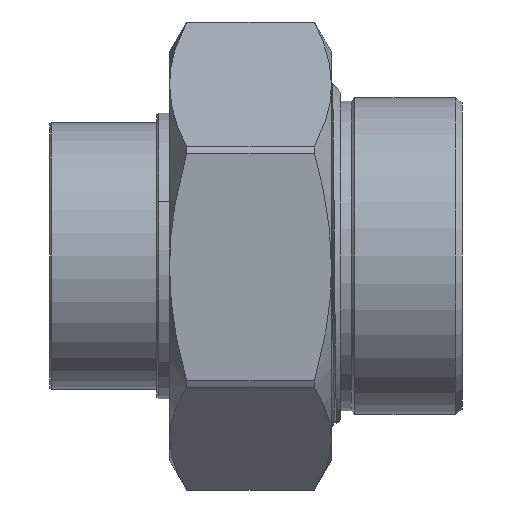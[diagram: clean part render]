
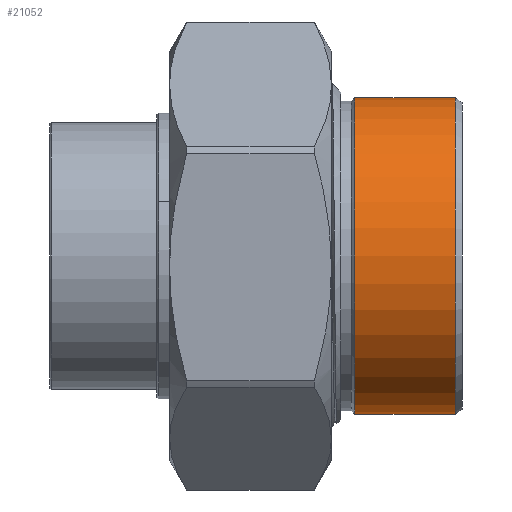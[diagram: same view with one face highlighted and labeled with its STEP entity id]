
A CAD part, front view. The second image highlights one B-rep face of the part: STEP entity #21052.
In plain terms, the highlighted cylindrical face has radius 27.4 mm (diameter 54.8 mm), a partial arc.
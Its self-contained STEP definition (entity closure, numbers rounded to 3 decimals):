
#2273 = VERTEX_POINT('',#2274);
#2274 = CARTESIAN_POINT('',(-14.095,0.,27.4));
#2288 = CONICAL_SURFACE('',#2289,27.4,0.785);
#2289 = AXIS2_PLACEMENT_3D('',#2290,#2291,#2292);
#2290 = CARTESIAN_POINT('',(-14.095,0.,0.));
#2291 = DIRECTION('',(1.,0.,0.));
#2292 = DIRECTION('',(0.,0.,-1.));
#2301 = VERTEX_POINT('',#2302);
#2302 = CARTESIAN_POINT('',(-14.095,0.,-27.4));
#2317 = CYLINDRICAL_SURFACE('',#2318,27.4);
#2318 = AXIS2_PLACEMENT_3D('',#2319,#2320,#2321);
#2319 = CARTESIAN_POINT('',(-49.809,0.,0.));
#2320 = DIRECTION('',(-1.,0.,0.));
#2321 = DIRECTION('',(0.,0.,1.));
#2354 = VERTEX_POINT('',#2355);
#2355 = CARTESIAN_POINT('',(3.255,0.,27.4));
#2356 = VERTEX_POINT('',#2357);
#2357 = CARTESIAN_POINT('',(3.255,0.,-27.4));
#2384 = EDGE_CURVE('',#2356,#2301,#2385,.T.);
#2385 = SURFACE_CURVE('',#2386,(#2390,#2397),.PCURVE_S1.);
#2386 = LINE('',#2387,#2388);
#2387 = CARTESIAN_POINT('',(-49.809,0.,-27.4));
#2388 = VECTOR('',#2389,1.);
#2389 = DIRECTION('',(-1.,0.,0.));
#2390 = PCURVE('',#2317,#2391);
#2391 = DEFINITIONAL_REPRESENTATION('',(#2392),#2396);
#2392 = LINE('',#2393,#2394);
#2393 = CARTESIAN_POINT('',(3.142,0.));
#2394 = VECTOR('',#2395,1.);
#2395 = DIRECTION('',(0.,1.));
#2396 = ( GEOMETRIC_REPRESENTATION_CONTEXT(2) 
PARAMETRIC_REPRESENTATION_CONTEXT() REPRESENTATION_CONTEXT('2D SPACE',''
  ) );
#2397 = PCURVE('',#2398,#2403);
#2398 = CYLINDRICAL_SURFACE('',#2399,27.4);
#2399 = AXIS2_PLACEMENT_3D('',#2400,#2401,#2402);
#2400 = CARTESIAN_POINT('',(-49.809,0.,0.));
#2401 = DIRECTION('',(-1.,0.,0.));
#2402 = DIRECTION('',(0.,0.,1.));
#2403 = DEFINITIONAL_REPRESENTATION('',(#2404),#2408);
#2404 = LINE('',#2405,#2406);
#2405 = CARTESIAN_POINT('',(3.142,0.));
#2406 = VECTOR('',#2407,1.);
#2407 = DIRECTION('',(0.,1.));
#2408 = ( GEOMETRIC_REPRESENTATION_CONTEXT(2) 
PARAMETRIC_REPRESENTATION_CONTEXT() REPRESENTATION_CONTEXT('2D SPACE',''
  ) );
#2411 = EDGE_CURVE('',#2354,#2273,#2412,.T.);
#2412 = SURFACE_CURVE('',#2413,(#2417,#2424),.PCURVE_S1.);
#2413 = LINE('',#2414,#2415);
#2414 = CARTESIAN_POINT('',(-49.809,0.,27.4));
#2415 = VECTOR('',#2416,1.);
#2416 = DIRECTION('',(-1.,0.,0.));
#2417 = PCURVE('',#2317,#2418);
#2418 = DEFINITIONAL_REPRESENTATION('',(#2419),#2423);
#2419 = LINE('',#2420,#2421);
#2420 = CARTESIAN_POINT('',(0.,0.));
#2421 = VECTOR('',#2422,1.);
#2422 = DIRECTION('',(0.,1.));
#2423 = ( GEOMETRIC_REPRESENTATION_CONTEXT(2) 
PARAMETRIC_REPRESENTATION_CONTEXT() REPRESENTATION_CONTEXT('2D SPACE',''
  ) );
#2424 = PCURVE('',#2398,#2425);
#2425 = DEFINITIONAL_REPRESENTATION('',(#2426),#2430);
#2426 = LINE('',#2427,#2428);
#2427 = CARTESIAN_POINT('',(6.283,0.));
#2428 = VECTOR('',#2429,1.);
#2429 = DIRECTION('',(0.,1.));
#2430 = ( GEOMETRIC_REPRESENTATION_CONTEXT(2) 
PARAMETRIC_REPRESENTATION_CONTEXT() REPRESENTATION_CONTEXT('2D SPACE',''
  ) );
#2480 = CONICAL_SURFACE('',#2481,26.5,0.644);
#2481 = AXIS2_PLACEMENT_3D('',#2482,#2483,#2484);
#2482 = CARTESIAN_POINT('',(4.455,0.,0.));
#2483 = DIRECTION('',(-1.,0.,0.));
#2484 = DIRECTION('',(0.,0.,1.));
#21031 = EDGE_CURVE('',#2356,#2354,#21032,.T.);
#21032 = SURFACE_CURVE('',#21033,(#21038,#21045),.PCURVE_S1.);
#21033 = CIRCLE('',#21034,27.4);
#21034 = AXIS2_PLACEMENT_3D('',#21035,#21036,#21037);
#21035 = CARTESIAN_POINT('',(3.255,0.,0.));
#21036 = DIRECTION('',(-1.,0.,0.));
#21037 = DIRECTION('',(0.,0.,1.));
#21038 = PCURVE('',#2480,#21039);
#21039 = DEFINITIONAL_REPRESENTATION('',(#21040),#21044);
#21040 = LINE('',#21041,#21042);
#21041 = CARTESIAN_POINT('',(0.,1.2));
#21042 = VECTOR('',#21043,1.);
#21043 = DIRECTION('',(1.,0.));
#21044 = ( GEOMETRIC_REPRESENTATION_CONTEXT(2) 
PARAMETRIC_REPRESENTATION_CONTEXT() REPRESENTATION_CONTEXT('2D SPACE',''
  ) );
#21045 = PCURVE('',#2398,#21046);
#21046 = DEFINITIONAL_REPRESENTATION('',(#21047),#21051);
#21047 = LINE('',#21048,#21049);
#21048 = CARTESIAN_POINT('',(0.,-53.065));
#21049 = VECTOR('',#21050,1.);
#21050 = DIRECTION('',(1.,0.));
#21051 = ( GEOMETRIC_REPRESENTATION_CONTEXT(2) 
PARAMETRIC_REPRESENTATION_CONTEXT() REPRESENTATION_CONTEXT('2D SPACE',''
  ) );
#21052 = ADVANCED_FACE('',(#21053),#2398,.T.);
#21053 = FACE_BOUND('',#21054,.T.);
#21054 = EDGE_LOOP('',(#21055,#21056,#21057,#21058));
#21055 = ORIENTED_EDGE('',*,*,#2384,.F.);
#21056 = ORIENTED_EDGE('',*,*,#21031,.T.);
#21057 = ORIENTED_EDGE('',*,*,#2411,.T.);
#21058 = ORIENTED_EDGE('',*,*,#21059,.F.);
#21059 = EDGE_CURVE('',#2301,#2273,#21060,.T.);
#21060 = SURFACE_CURVE('',#21061,(#21066,#21073),.PCURVE_S1.);
#21061 = CIRCLE('',#21062,27.4);
#21062 = AXIS2_PLACEMENT_3D('',#21063,#21064,#21065);
#21063 = CARTESIAN_POINT('',(-14.095,0.,0.));
#21064 = DIRECTION('',(-1.,0.,0.));
#21065 = DIRECTION('',(0.,0.,1.));
#21066 = PCURVE('',#2398,#21067);
#21067 = DEFINITIONAL_REPRESENTATION('',(#21068),#21072);
#21068 = LINE('',#21069,#21070);
#21069 = CARTESIAN_POINT('',(0.,-35.715));
#21070 = VECTOR('',#21071,1.);
#21071 = DIRECTION('',(1.,0.));
#21072 = ( GEOMETRIC_REPRESENTATION_CONTEXT(2) 
PARAMETRIC_REPRESENTATION_CONTEXT() REPRESENTATION_CONTEXT('2D SPACE',''
  ) );
#21073 = PCURVE('',#2288,#21074);
#21074 = DEFINITIONAL_REPRESENTATION('',(#21075),#21079);
#21075 = LINE('',#21076,#21077);
#21076 = CARTESIAN_POINT('',(9.425,0.));
#21077 = VECTOR('',#21078,1.);
#21078 = DIRECTION('',(-1.,0.));
#21079 = ( GEOMETRIC_REPRESENTATION_CONTEXT(2) 
PARAMETRIC_REPRESENTATION_CONTEXT() REPRESENTATION_CONTEXT('2D SPACE',''
  ) );
